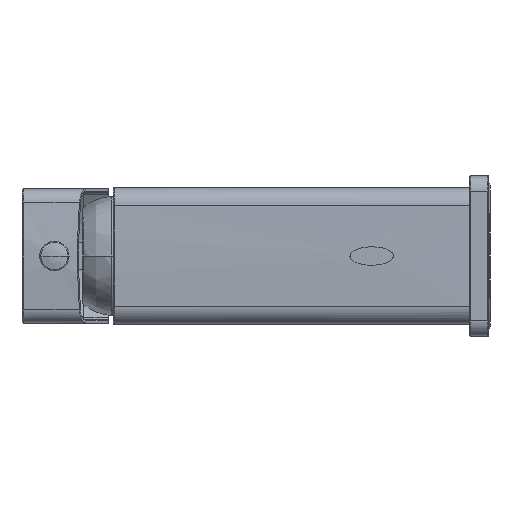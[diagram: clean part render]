
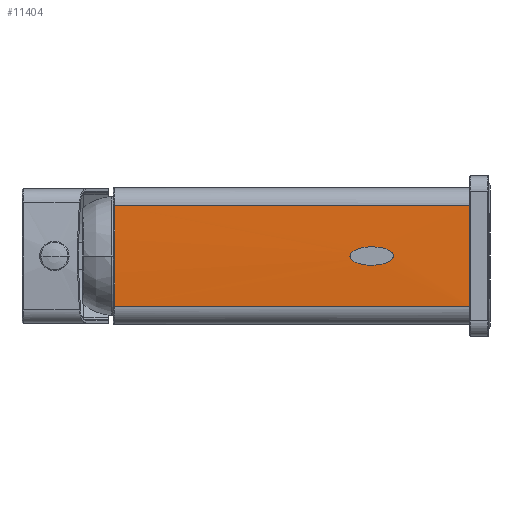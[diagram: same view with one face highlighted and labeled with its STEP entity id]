
A CAD part, left-side view. The second image highlights one B-rep face of the part: STEP entity #11404.
In plain terms, the highlighted cylindrical face has radius 424.43 mm (diameter 848.859 mm), a partial arc.
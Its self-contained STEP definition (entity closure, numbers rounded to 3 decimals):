
#3031=CARTESIAN_POINT('',(-22.052,0.,
-16.328));
#3032=CARTESIAN_POINT('',(-22.192,0.,
-12.696));
#3033=CARTESIAN_POINT('',(-22.368,0.,
-5.443));
#3034=CARTESIAN_POINT('',(-22.368,0.,
5.443));
#3035=CARTESIAN_POINT('',(-22.192,0.,
12.696));
#3036=CARTESIAN_POINT('',(-22.052,0.,
16.328));
#3038=CARTESIAN_POINT('',(-22.052,0.,
16.328));
#3195=CARTESIAN_POINT('',(-22.21,38.883,
0.));
#3196=CARTESIAN_POINT('',(-22.21,38.887,
-0.173));
#3197=CARTESIAN_POINT('',(-22.21,38.829,
-0.509));
#3198=CARTESIAN_POINT('',(-22.21,38.524,
-0.998));
#3199=CARTESIAN_POINT('',(-22.211,38.056,
-1.44));
#3200=CARTESIAN_POINT('',(-22.211,37.455,
-1.823));
#3201=CARTESIAN_POINT('',(-22.213,36.766,
-2.143));
#3202=CARTESIAN_POINT('',(-22.214,35.993,
-2.414));
#3203=CARTESIAN_POINT('',(-22.216,35.133,
-2.642));
#3204=CARTESIAN_POINT('',(-22.218,34.188,
-2.823));
#3205=CARTESIAN_POINT('',(-22.222,33.16,
-2.948));
#3206=CARTESIAN_POINT('',(-22.225,32.055,
-3.006));
#3207=CARTESIAN_POINT('',(-22.23,30.898,
-2.981));
#3208=CARTESIAN_POINT('',(-22.235,29.753,
-2.869));
#3209=CARTESIAN_POINT('',(-22.24,28.688,
-2.683));
#3210=CARTESIAN_POINT('',(-22.246,27.746,
-2.441));
#3211=CARTESIAN_POINT('',(-22.25,26.932,
-2.158));
#3212=CARTESIAN_POINT('',(-22.254,26.229,
-1.831));
#3213=CARTESIAN_POINT('',(-22.258,25.632,
-1.449));
#3214=CARTESIAN_POINT('',(-22.261,25.168,
-1.013));
#3215=CARTESIAN_POINT('',(-22.263,24.854,
-0.513));
#3216=CARTESIAN_POINT('',(-22.264,24.797,
-0.174));
#3217=CARTESIAN_POINT('',(-22.264,24.802,
0.));
#3219=CARTESIAN_POINT('',(-22.264,24.802,
0.));
#3220=CARTESIAN_POINT('',(-22.264,24.797,
0.172));
#3221=CARTESIAN_POINT('',(-22.263,24.854,
0.508));
#3222=CARTESIAN_POINT('',(-22.261,25.156,
0.997));
#3223=CARTESIAN_POINT('',(-22.258,25.62,1.441));
#3224=CARTESIAN_POINT('',(-22.254,26.219,1.825));
#3225=CARTESIAN_POINT('',(-22.25,26.905,2.146));
#3226=CARTESIAN_POINT('',(-22.246,27.673,2.417));
#3227=CARTESIAN_POINT('',(-22.241,28.506,2.639));
#3228=CARTESIAN_POINT('',(-22.237,29.446,2.822));
#3229=CARTESIAN_POINT('',(-22.232,30.531,2.954));
#3230=CARTESIAN_POINT('',(-22.227,31.704,3.009));
#3231=CARTESIAN_POINT('',(-22.222,32.89,2.972));
#3232=CARTESIAN_POINT('',(-22.219,34.036,2.848));
#3233=CARTESIAN_POINT('',(-22.216,35.096,2.653));
#3234=CARTESIAN_POINT('',(-22.214,36.026,2.405));
#3235=CARTESIAN_POINT('',(-22.213,36.816,2.123));
#3236=CARTESIAN_POINT('',(-22.211,37.496,1.8));
#3237=CARTESIAN_POINT('',(-22.211,38.076,1.422));
#3238=CARTESIAN_POINT('',(-22.21,38.527,
0.993));
#3239=CARTESIAN_POINT('',(-22.21,38.832,
0.502));
#3240=CARTESIAN_POINT('',(-22.21,38.888,
0.17));
#3241=CARTESIAN_POINT('',(-22.21,38.883,
0.));
#3243=CARTESIAN_POINT('',(402.509,113.578,0.));
#3244=DIRECTION('',(0.004,1.,0.));
#3245=DIRECTION('',(-0.999,0.004,-0.039));
#3246=AXIS2_PLACEMENT_3D('',#3243,#3244,#3245);
#3248=DIRECTION('',(-0.004,-1.,0.));
#3249=VECTOR('',#3248,115.203);
#3250=CARTESIAN_POINT('',(-21.596,115.202,16.357));
#3251=LINE('',#3250,#3249);
#3567=CARTESIAN_POINT('',(-21.596,115.202,
-16.349));
#3569=DIRECTION('',(-0.004,-1.,0.));
#3570=VECTOR('',#3569,115.203);
#3571=CARTESIAN_POINT('',(-21.596,115.202,
-16.349));
#3572=LINE('',#3571,#3570);
#3573=CARTESIAN_POINT('',(-22.052,0.,
-16.328));
#5505=VERTEX_POINT('',#3038);
#5512=VERTEX_POINT('',#3573);
#5953=VERTEX_POINT('',#3195);
#5954=VERTEX_POINT('',#3217);
#6168=VERTEX_POINT('',#3567);
#6170=CARTESIAN_POINT('',(-21.602,115.201,16.358));
#6171=VERTEX_POINT('',#6170);
#11384=CARTESIAN_POINT('',(402.515,115.234,
0.));
#11385=DIRECTION('',(-0.004,-1.,0.));
#11386=DIRECTION('',(-1.,0.004,0.));
#11387=AXIS2_PLACEMENT_3D('',#11384,#11385,#11386);
#11388=CYLINDRICAL_SURFACE('',#11387,424.43);
#11390=ORIENTED_EDGE('',*,*,#11389,.T.);
#11392=ORIENTED_EDGE('',*,*,#11391,.T.);
#11393=ORIENTED_EDGE('',*,*,#11280,.F.);
#11395=ORIENTED_EDGE('',*,*,#11394,.F.);
#11396=EDGE_LOOP('',(#11390,#11392,#11393,#11395));
#11397=FACE_OUTER_BOUND('',#11396,.F.);
#11399=ORIENTED_EDGE('',*,*,#11398,.T.);
#11401=ORIENTED_EDGE('',*,*,#11400,.T.);
#11402=EDGE_LOOP('',(#11399,#11401));
#11403=FACE_BOUND('',#11402,.F.);
#3037=B_SPLINE_CURVE_WITH_KNOTS('',3,(#3031,#3032,#3033,#3034,#3035,#3036),
.UNSPECIFIED.,.F.,.F.,(4,1,1,4),(0.,0.333,0.667,1.),
.UNSPECIFIED.);
#3218=B_SPLINE_CURVE_WITH_KNOTS('',3,(#3195,#3196,#3197,#3198,#3199,#3200,#3201,
#3202,#3203,#3204,#3205,#3206,#3207,#3208,#3209,#3210,#3211,#3212,#3213,#3214,
#3215,#3216,#3217),.UNSPECIFIED.,.F.,.F.,(4,1,1,1,1,1,1,1,1,1,1,1,1,1,1,1,1,1,1,
1,4),(0.,0.05,0.1,0.15,0.2,0.25,0.3,0.35,0.4,0.45,0.5,
0.55,0.6,0.65,0.7,0.75,0.8,0.85,0.9,0.95,1.),.UNSPECIFIED.);
#3242=B_SPLINE_CURVE_WITH_KNOTS('',3,(#3219,#3220,#3221,#3222,#3223,#3224,#3225,
#3226,#3227,#3228,#3229,#3230,#3231,#3232,#3233,#3234,#3235,#3236,#3237,#3238,
#3239,#3240,#3241),.UNSPECIFIED.,.F.,.F.,(4,1,1,1,1,1,1,1,1,1,1,1,1,1,1,1,1,1,1,
1,4),(0.,0.05,0.1,0.15,0.2,0.25,0.3,0.35,0.4,0.45,0.5,
0.55,0.6,0.65,0.7,0.75,0.8,0.85,0.9,0.95,1.),.UNSPECIFIED.);
#3247=CIRCLE('',#3246,424.43);
#11280=EDGE_CURVE('',#5512,#5505,#3037,.T.);
#11389=EDGE_CURVE('',#6168,#6171,#3247,.T.);
#11391=EDGE_CURVE('',#6171,#5505,#3251,.T.);
#11394=EDGE_CURVE('',#6168,#5512,#3572,.T.);
#11398=EDGE_CURVE('',#5953,#5954,#3218,.T.);
#11400=EDGE_CURVE('',#5954,#5953,#3242,.T.);
#11404=ADVANCED_FACE('',(#11397,#11403),#11388,.T.);
